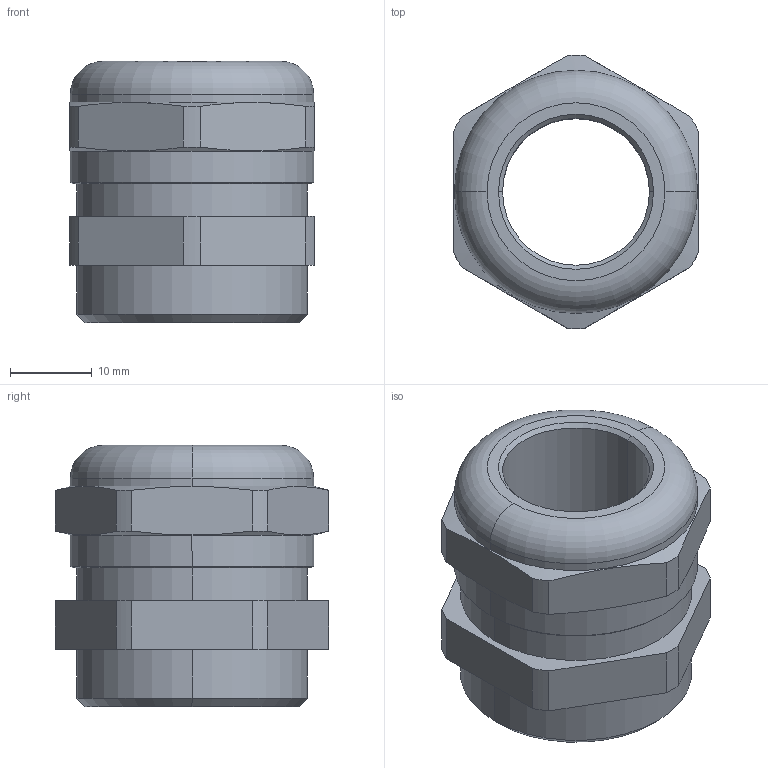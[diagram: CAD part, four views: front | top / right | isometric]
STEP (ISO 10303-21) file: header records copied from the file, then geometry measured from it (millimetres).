
FILE_DESCRIPTION (( 'STEP AP203' ), '1' );
FILE_NAME ('18211418.STEP', '2006-10-13T09:49:57', ( ' ' ), ( '' ), 'SwSTEP 2.0', 'SolidWorks 2005278', '' );
FILE_SCHEMA (( 'CONFIG_CONTROL_DESIGN' ));
Length unit declared in the file: millimetre
Products named in the file (1): 18211418
Bounding box: 30 x 33.49 x 32 mm (x, y, z)
Volume: 13981 mm3; surface area: 5907.2 mm2
Topology: 1 solids, 1 shells, 88 faces, 228 edges, 148 vertices
Faces by surface type: plane 54, cylinder 22, cone 10, torus 2
Entity records: 2823 total; most frequent: CARTESIAN_POINT 569, ORIENTED_EDGE 456, DIRECTION 444, EDGE_CURVE 228, VECTOR 158, LINE 158, VERTEX_POINT 148, AXIS2_PLACEMENT_3D 143
